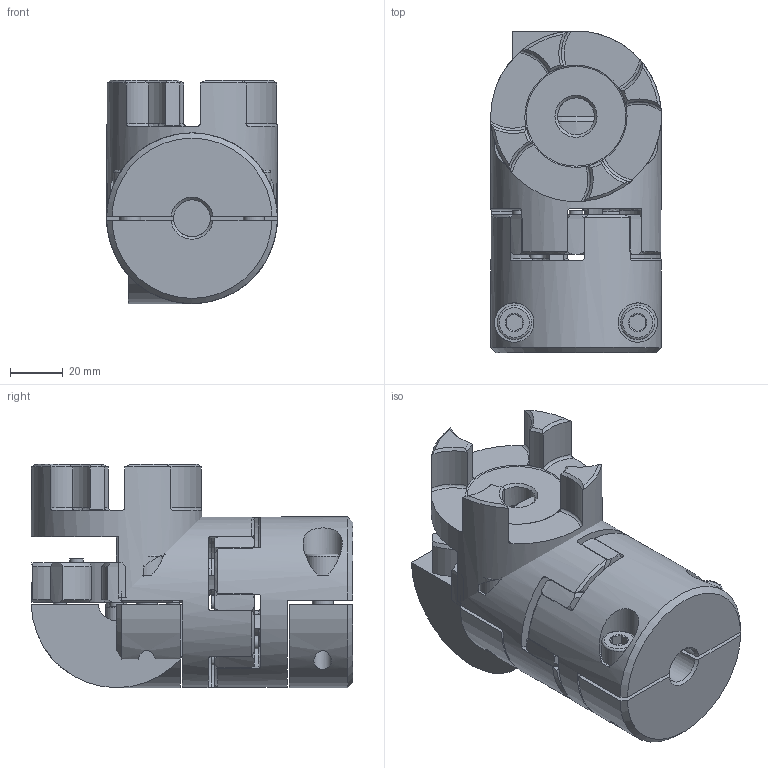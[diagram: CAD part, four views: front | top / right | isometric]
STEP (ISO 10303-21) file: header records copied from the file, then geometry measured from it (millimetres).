
FILE_DESCRIPTION( ( 'Unknown' ), '1' );
FILE_NAME( 'C:/Dokumente und Einstellungen/Sven/Desktop/homepage/cad - homepage/KBE2H/KBE 2H - 28.stp', 'Unknown', ( 'Unknown' ), ( 'Unknown' ), 'XStep 1.0', 'Unknown', ' ' );
FILE_SCHEMA( ( 'automotive_design' ) );
Length unit declared in the file: millimetre
Products named in the file (7): Assem1; KBE 2H - 28_Nabe; KBE 2H - 28_Nabe-oa0; Zahnkranz EK28_Standard; ISO EN DIN 4762 M8x25; KBE 2H - 28_Klemme; KBE 2H - 28_Klemme-oa1
Bounding box: 64.98 x 122.49 x 85 mm (x, y, z)
Volume: 500721.1 mm3; surface area: 128384.4 mm2
Topology: 15 solids, 15 shells, 583 faces, 1393 edges, 884 vertices
Faces by surface type: cylinder 192, cone 185, plane 160, torus 46
Full cylindrical faces by diameter (mm): 5 x16, 6.647 x8, 7 x5, 8 x10, 9 x8, 13 x5, 14 x4, 30 x4, 65 x4
Entity records: 9018 total; most frequent: CARTESIAN_POINT 2594, DIRECTION 1240, ORIENTED_EDGE 1172, EDGE_CURVE 586, AXIS2_PLACEMENT_3D 564, VERTEX_POINT 394, EDGE_LOOP 324, CIRCLE 300
